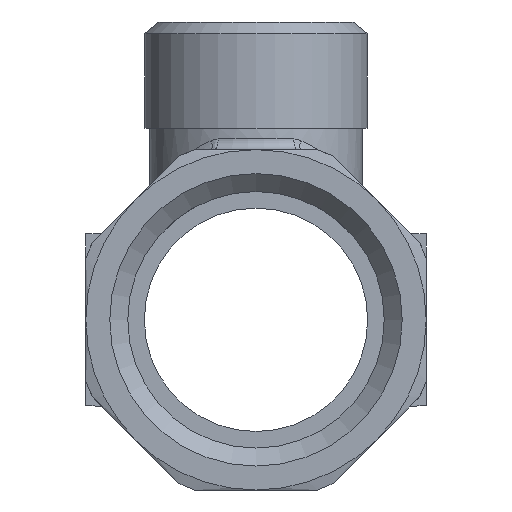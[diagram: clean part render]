
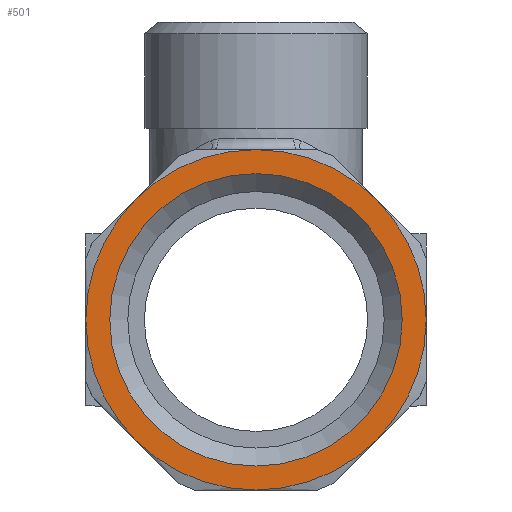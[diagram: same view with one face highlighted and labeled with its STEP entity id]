
A CAD part, front view. The second image highlights one B-rep face of the part: STEP entity #501.
In plain terms, the highlighted planar face has unit normal (0, -1, 0).
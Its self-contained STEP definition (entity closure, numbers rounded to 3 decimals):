
#501=ADVANCED_FACE('',(#6197,#6199),#6201,.F.);
#6197=FACE_BOUND('',#6198,.T.);
#6198=EDGE_LOOP('',(#10994,#10995,#10996,#10997,#10998,#10999,#11000,#11001));
#6199=FACE_BOUND('',#6200,.T.);
#6200=EDGE_LOOP('',(#11002));
#6201=PLANE('',#6202);
#6202=AXIS2_PLACEMENT_3D('',#6203,#6204,#6205);
#6203=CARTESIAN_POINT('',(0.,0.,0.));
#6204=DIRECTION('',(0.,1.,0.));
#6205=DIRECTION('',(-1.,0.,0.));
#10994=ORIENTED_EDGE('',*,*,#13676,.T.);
#10995=ORIENTED_EDGE('',*,*,#13675,.T.);
#10996=ORIENTED_EDGE('',*,*,#13674,.T.);
#10997=ORIENTED_EDGE('',*,*,#13681,.T.);
#10998=ORIENTED_EDGE('',*,*,#13680,.T.);
#10999=ORIENTED_EDGE('',*,*,#13679,.T.);
#11000=ORIENTED_EDGE('',*,*,#13678,.T.);
#11001=ORIENTED_EDGE('',*,*,#13677,.T.);
#11002=ORIENTED_EDGE('',*,*,#13846,.T.);
#13674=EDGE_CURVE('',#16256,#16312,#16354,.T.);
#13675=EDGE_CURVE('',#16264,#16256,#16355,.T.);
#13676=EDGE_CURVE('',#16272,#16264,#16356,.T.);
#13677=EDGE_CURVE('',#16280,#16272,#16357,.T.);
#13678=EDGE_CURVE('',#16288,#16280,#16358,.T.);
#13679=EDGE_CURVE('',#16296,#16288,#16359,.T.);
#13680=EDGE_CURVE('',#16304,#16296,#16360,.T.);
#13681=EDGE_CURVE('',#16312,#16304,#16361,.T.);
#13846=EDGE_CURVE('',#16690,#16690,#16691,.F.);
#16256=VERTEX_POINT('',#30717);
#16264=VERTEX_POINT('',#30774);
#16272=VERTEX_POINT('',#30823);
#16280=VERTEX_POINT('',#30895);
#16288=VERTEX_POINT('',#30944);
#16296=VERTEX_POINT('',#31001);
#16304=VERTEX_POINT('',#31050);
#16312=VERTEX_POINT('',#31107);
#16354=CIRCLE('',#31240,16.);
#16355=CIRCLE('',#31244,16.);
#16356=CIRCLE('',#31248,16.);
#16357=CIRCLE('',#31252,16.);
#16358=CIRCLE('',#31256,16.);
#16359=CIRCLE('',#31260,16.);
#16360=CIRCLE('',#31264,16.);
#16361=CIRCLE('',#31268,16.);
#16690=VERTEX_POINT('',#31932);
#16691=CIRCLE('',#31933,13.75);
#30717=CARTESIAN_POINT('',(0.,0.,16.));
#30774=CARTESIAN_POINT('',(11.314,0.,11.314));
#30823=CARTESIAN_POINT('',(16.,0.,0.));
#30895=CARTESIAN_POINT('',(11.314,0.,-11.314));
#30944=CARTESIAN_POINT('',(0.,0.,-16.));
#31001=CARTESIAN_POINT('',(-11.314,0.,-11.314));
#31050=CARTESIAN_POINT('',(-16.,0.,0.));
#31107=CARTESIAN_POINT('',(-11.314,0.,11.314));
#31240=AXIS2_PLACEMENT_3D('',#31241,#31242,#31243);
#31241=CARTESIAN_POINT('',(0.,0.,0.));
#31242=DIRECTION('',(0.,-1.,0.));
#31243=DIRECTION('',(0.,0.,1.));
#31244=AXIS2_PLACEMENT_3D('',#31245,#31246,#31247);
#31245=CARTESIAN_POINT('',(0.,0.,0.));
#31246=DIRECTION('',(0.,-1.,0.));
#31247=DIRECTION('',(0.707,0.,0.707));
#31248=AXIS2_PLACEMENT_3D('',#31249,#31250,#31251);
#31249=CARTESIAN_POINT('',(0.,0.,0.));
#31250=DIRECTION('',(0.,-1.,0.));
#31251=DIRECTION('',(1.,0.,0.));
#31252=AXIS2_PLACEMENT_3D('',#31253,#31254,#31255);
#31253=CARTESIAN_POINT('',(0.,0.,0.));
#31254=DIRECTION('',(0.,-1.,0.));
#31255=DIRECTION('',(0.707,0.,-0.707));
#31256=AXIS2_PLACEMENT_3D('',#31257,#31258,#31259);
#31257=CARTESIAN_POINT('',(0.,0.,0.));
#31258=DIRECTION('',(0.,-1.,0.));
#31259=DIRECTION('',(0.,0.,-1.));
#31260=AXIS2_PLACEMENT_3D('',#31261,#31262,#31263);
#31261=CARTESIAN_POINT('',(0.,0.,0.));
#31262=DIRECTION('',(0.,-1.,0.));
#31263=DIRECTION('',(-0.707,0.,-0.707));
#31264=AXIS2_PLACEMENT_3D('',#31265,#31266,#31267);
#31265=CARTESIAN_POINT('',(0.,0.,0.));
#31266=DIRECTION('',(0.,-1.,0.));
#31267=DIRECTION('',(-1.,0.,0.));
#31268=AXIS2_PLACEMENT_3D('',#31269,#31270,#31271);
#31269=CARTESIAN_POINT('',(0.,0.,0.));
#31270=DIRECTION('',(0.,-1.,0.));
#31271=DIRECTION('',(-0.707,0.,0.707));
#31932=CARTESIAN_POINT('',(13.75,0.,0.));
#31933=AXIS2_PLACEMENT_3D('',#31934,#31935,#31936);
#31934=CARTESIAN_POINT('',(0.,0.,0.));
#31935=DIRECTION('',(0.,-1.,0.));
#31936=DIRECTION('',(1.,0.,0.));
